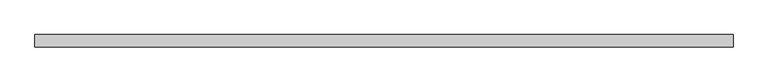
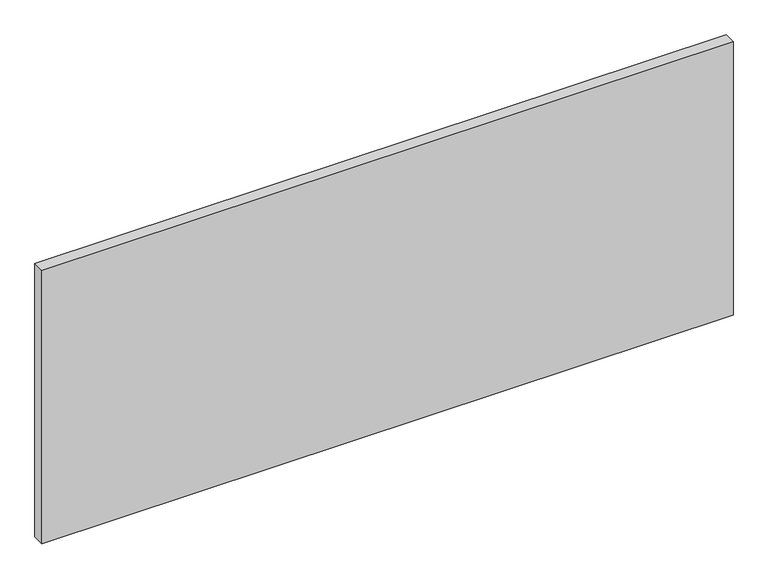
"""IFC4 building model written with IfcOpenShell, lengths in millimetres: plate geometry, 系统嵌板 : 玻璃."""

import ifcopenshell
import ifcopenshell.guid

model = None  # the IFC model being written
_history = None  # IfcOwnerHistory: only IFC2X3 demands one
_inside = {}  # id of a spatial element -> (the spatial element, [elements in it])
_under = {}  # id of a project, library or spatial element -> (it, [spatial elements below it])
_declared = {}  # id of a project -> (the project, [libraries it declares])
_typed = {}  # id of a type object -> (the type object, [elements of that type])
_made_of = {}  # id of a material, layer set ... -> (it, [elements and type objects made of it])


def new_model(schema):
    """Start an empty IFC model of exactly this schema.

    Asked for "IFC4X3", IfcOpenShell would pick the latest addendum, in which some entities
    have other attributes; the version numbers below select the first issue.
    IFC2X3 requires an IfcOwnerHistory on every rooted entity: one is made here for all.
    """
    global model, _history
    if schema == "IFC4X3":
        model = ifcopenshell.file(schema_version=(4, 3, 0, 0))
    else:
        model = ifcopenshell.file(schema=schema)
    _inside.clear()
    _under.clear()
    _declared.clear()
    _typed.clear()
    _made_of.clear()
    _history = None
    if model.schema == "IFC2X3":
        org = make("IfcOrganization", Name="unknown")
        user = make(
            "IfcPersonAndOrganization",
            ThePerson=make("IfcPerson", FamilyName="unknown"),
            TheOrganization=org,
        )
        app = make(
            "IfcApplication",
            ApplicationDeveloper=org,
            Version="unknown",
            ApplicationFullName="unknown",
            ApplicationIdentifier="unknown",
        )
        _history = make(
            "IfcOwnerHistory",
            OwningUser=user,
            OwningApplication=app,
            ChangeAction="ADDED",
            CreationDate=0,
        )
    return model


def make(cls, **values):
    """One entity of the class cls with the attributes given. An attribute that is None is left unset."""
    return model.create_entity(
        cls, **{name: value for name, value in values.items() if value is not None}
    )


def rooted(cls, **values):
    """An entity with a GlobalId (a new one), such as an element, a storey or a relation."""
    return make(cls, GlobalId=ifcopenshell.guid.new(), OwnerHistory=_history, **values)


def si_unit(unit_type, name, prefix=None):
    """IfcSIUnit, for example si_unit("LENGTHUNIT", "METRE", prefix="MILLI")."""
    return make("IfcSIUnit", UnitType=unit_type, Prefix=prefix, Name=name)


def assignment(units):
    """IfcUnitAssignment: the units of a project."""
    return None if units is None else make("IfcUnitAssignment", Units=units)


def point(xyz):
    """IfcCartesianPoint."""
    return None if xyz is None else make("IfcCartesianPoint", Coordinates=xyz)


def direction(xyz):
    """IfcDirection."""
    return None if xyz is None else make("IfcDirection", DirectionRatios=xyz)


def frame(location, z_axis=None, x_axis=None):
    """IfcAxis2Placement3D, a coordinate frame: its origin and axes. An axis left out is left unset."""
    return make(
        "IfcAxis2Placement3D",
        Location=point(location),
        Axis=direction(z_axis),
        RefDirection=direction(x_axis),
    )


def origin():
    """The frame at (0, 0, 0) with its axes left unset."""
    return frame((0.0, 0.0, 0.0))


def origin_with_axes():
    """The frame at (0, 0, 0) with the z axis (0, 0, 1) and the x axis (1, 0, 0) written out."""
    return frame((0.0, 0.0, 0.0), z_axis=(0.0, 0.0, 1.0), x_axis=(1.0, 0.0, 0.0))


def place(relative_to, where):
    """IfcLocalPlacement: puts the frame where relative to a parent placement (None: the world)."""
    return make(
        "IfcLocalPlacement", PlacementRelTo=relative_to, RelativePlacement=where
    )


def context(
    kind, dimensions, precision=None, world=None, true_north=None, identifier=None
):
    """IfcGeometricRepresentationContext, for example the 3D "Model" context."""
    return make(
        "IfcGeometricRepresentationContext",
        ContextIdentifier=identifier,
        ContextType=kind,
        CoordinateSpaceDimension=dimensions,
        Precision=precision,
        WorldCoordinateSystem=world,
        TrueNorth=true_north,
    )


def project(units=None, contexts=None):
    """IfcProject with its units and contexts."""
    return rooted(
        "IfcProject",
        Name="project",
        RepresentationContexts=contexts,
        UnitsInContext=assignment(units),
    )


def spatial(cls, under=None, at=None, **own):
    """A site, building, storey or space (cls), placed at a placement, below another one or the project."""
    s = rooted(cls, ObjectPlacement=at, **own)
    if under is not None:
        _under.setdefault(under.id(), (under, []))[1].append(s)
    return s


def polyline(points):
    """IfcPolyline through the points."""
    return make("IfcPolyline", Points=[point(p) for p in points])


def outline(outer, holes=None, kind="AREA"):
    """IfcArbitraryClosedProfileDef: a profile drawn as a closed curve; with holes, ...WithVoids."""
    if holes is None:
        return make("IfcArbitraryClosedProfileDef", ProfileType=kind, OuterCurve=outer)
    return make(
        "IfcArbitraryProfileDefWithVoids",
        ProfileType=kind,
        OuterCurve=outer,
        InnerCurves=holes,
    )


def extrude(swept, where, along, depth):
    """IfcExtrudedAreaSolid: the profile swept, set in the frame where, extruded along a direction by depth."""
    return make(
        "IfcExtrudedAreaSolid",
        SweptArea=swept,
        Position=where,
        ExtrudedDirection=direction(along),
        Depth=depth,
    )


def shape(context_of_items, identifier, shape_type, items):
    """IfcShapeRepresentation: the items that make up one representation, for example the "Body"."""
    return make(
        "IfcShapeRepresentation",
        ContextOfItems=context_of_items,
        RepresentationIdentifier=identifier,
        RepresentationType=shape_type,
        Items=items,
    )


def source(mapping_origin, context_of_items, identifier, shape_type, items):
    """IfcRepresentationMap: a shape defined once, which mapped items show again and again."""
    return make(
        "IfcRepresentationMap",
        MappingOrigin=mapping_origin,
        MappedRepresentation=shape(context_of_items, identifier, shape_type, items),
    )


def transform(
    local_origin,
    x_axis=None,
    y_axis=None,
    z_axis=None,
    scale=None,
    scale2=None,
    scale3=None,
    uniform=True,
):
    """IfcCartesianTransformationOperator3D, or its non-uniform kind. x_axis, y_axis, z_axis: its Axis1, 2, 3."""
    if uniform:
        return make(
            "IfcCartesianTransformationOperator3D",
            Axis1=direction(x_axis),
            Axis2=direction(y_axis),
            LocalOrigin=point(local_origin),
            Scale=scale,
            Axis3=direction(z_axis),
        )
    return make(
        "IfcCartesianTransformationOperator3DnonUniform",
        Axis1=direction(x_axis),
        Axis2=direction(y_axis),
        LocalOrigin=point(local_origin),
        Scale=scale,
        Axis3=direction(z_axis),
        Scale2=scale2,
        Scale3=scale3,
    )


def mapped(mapping_source, mapping_target):
    """IfcMappedItem: shows the shape of a source again, moved by a transform."""
    return make(
        "IfcMappedItem", MappingSource=mapping_source, MappingTarget=mapping_target
    )


def made_of(thing, what):
    """Note that an element or type object is made of a material, layer set ...; save() writes the relation."""
    if what is not None:
        _made_of.setdefault(what.id(), (what, []))[1].append(thing)
    return thing


def element(
    cls,
    number,
    at=None,
    inside=None,
    cuts=None,
    type_object=None,
    material=None,
    context=None,
    identifier="Body",
    shape_type=None,
    held_by="IfcProductDefinitionShape",
    body=None,
    shapes=None,
    **own,
):
    """One element of the class cls, such as IfcWall. Its Tag is "e" and its number.

    at: its placement. inside: the storey or other place that contains it. cuts: it is an
    opening in that element (IfcRelVoidsElement). A single representation is given by context,
    identifier, shape_type and body (its items); several are given by shapes. held_by: the class
    of the entity that holds the representations. save() writes the other relations.
    """
    e = rooted(cls, Tag="e%d" % number, ObjectPlacement=at, **own)
    if body is not None:
        shapes = [shape(context, identifier, shape_type, body)]
    if shapes is not None:
        e.Representation = make(held_by, Representations=shapes)
    if inside is not None:
        _inside.setdefault(inside.id(), (inside, []))[1].append(e)
    if cuts is not None:
        rooted(
            "IfcRelVoidsElement", RelatingBuildingElement=cuts, RelatedOpeningElement=e
        )
    if type_object is not None:
        _typed.setdefault(type_object.id(), (type_object, []))[1].append(e)
    return made_of(e, material)


def aggregate(whole, parts):
    """IfcRelAggregates: a whole, such as a stair, and the parts it consists of."""
    return rooted("IfcRelAggregates", RelatingObject=whole, RelatedObjects=parts)


def save(model, path):
    """Write the relations noted so far, then the file.

    IfcRelAggregates (storeys below a building ...), IfcRelContainedInSpatialStructure (elements
    in a storey), IfcRelDefinesByType, IfcRelAssociatesMaterial and IfcRelDeclares: one each for
    every whole, place, type object, material and project.
    """
    for whole, parts in _under.values():
        aggregate(whole, parts)
    for where, things in _inside.values():
        rooted(
            "IfcRelContainedInSpatialStructure",
            RelatedElements=things,
            RelatingStructure=where,
        )
    for kind, things in _typed.values():
        rooted("IfcRelDefinesByType", RelatedObjects=things, RelatingType=kind)
    for what, things in _made_of.values():
        rooted("IfcRelAssociatesMaterial", RelatedObjects=things, RelatingMaterial=what)
    for by, libraries in _declared.values():
        rooted("IfcRelDeclares", RelatingContext=by, RelatedDefinitions=libraries)
    model.write(path)


def plate_0d231d8c(model_context):
    return source(origin(), model_context, "Body", "SweptSolid", [
        extrude(outline(polyline([(705.0038158, -12.5), (-705.0038158, -12.5), (-705.0038158, 12.5), (705.0038158, 12.5), (705.0038158, -12.5)])), origin_with_axes(), (0.0, 0.0, 1.0), 590.0),
    ])


if __name__ == "__main__":
    model = new_model("IFC4")
    model_context = context("Model", 3, world=origin())
    ifc_project = project(units=[si_unit("LENGTHUNIT", "METRE", prefix="MILLI")], contexts=[model_context])
    site = spatial("IfcSite", under=ifc_project)
    building = spatial("IfcBuilding", under=site)
    placement = place(None, origin())
    plate_shape = plate_0d231d8c(model_context)
    element("IfcPlate", 1, ObjectType="系统嵌板 : 玻璃", at=placement, inside=building, context=model_context, shape_type="MappedRepresentation", body=[
        mapped(plate_shape, transform((0.0, 0.0, 0.0), x_axis=(1.0, 0.0, 0.0), y_axis=(0.0, 1.0, 0.0), z_axis=(0.0, 0.0, 1.0))),
    ])
    save(model, "model.ifc")
